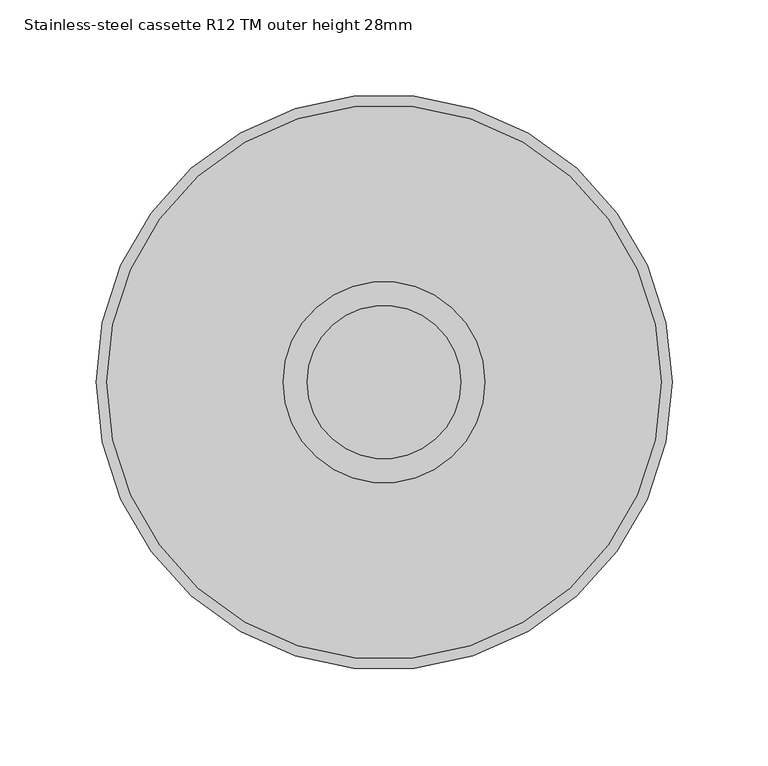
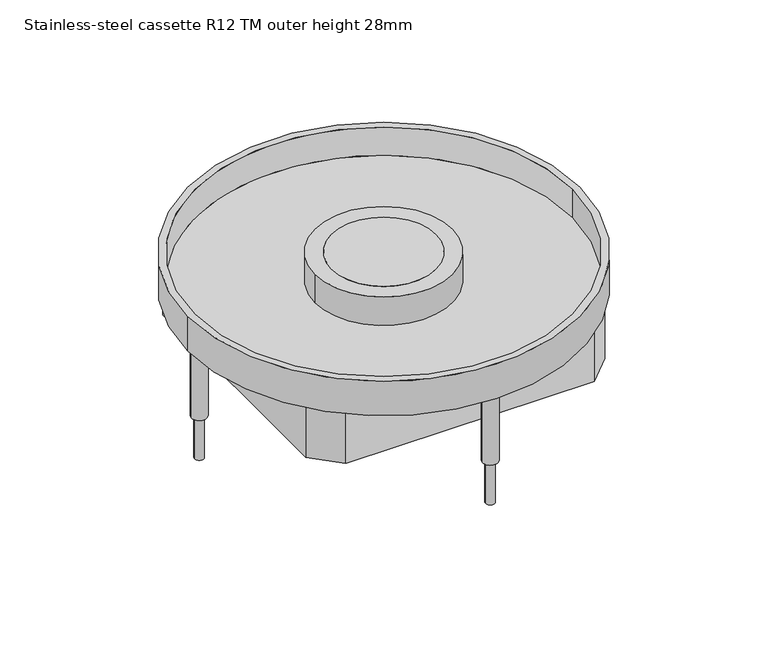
"""IFC4 building model written with IfcOpenShell, lengths in millimetres: proxy geometry, Electrical_Installation_Hager_VE-EE_EKR-Height-adjustable-stainless-steel-cassette-with-tube-mounting-set-round-for-damp-cleaned-floors : Stainless-steel cassette R12 TM outer height 28mm."""

from ifc_helpers import new_model, si_unit, point, frame, frame_2d, origin, origin_with_axes, origin_2d, place, context, project, spatial, polyline, circle_curve, trimmed, segment, composite_curve, outline, extrude, source, transform, mapped, element, save
from ifc_brep_helpers import plane_surface, cylinder_surface, revolved_surface, advanced_brep


def stainless_steel_cassette_r12_tm_outer_height_28mm_eca8fb90(model_context):
    return source(origin(), model_context, "Body", "SolidModel", [
        extrude(outline(composite_curve([segment(trimmed(circle_curve(origin_2d(), 40.0), [point((-40.0, 0.0))], [point((40.0, 0.0))], False, "CARTESIAN"), True, "CONTINUOUS"), segment(trimmed(circle_curve(origin_2d(), 40.0), [point((40.0, 0.0))], [point((-40.0, 0.0))], False, "CARTESIAN"), True, "CONTINUOUS")], self_intersect=False)), origin_with_axes(), (0.0, 0.0, 1.0), 2.011943),
        advanced_brep(
        [(-52.5, 0.0, 2.011943), (52.5, 0.0, 2.011943), (-40.0, 0.0, 2.011943), (40.0, 0.0, 2.011943), (-52.5, 0.0, -20.988057), (52.5, 0.0, -20.988057), (-40.0, 0.0, -20.988057), (40.0, 0.0, -20.988057), (-52.5, 0.0, 0.0), (52.5, 0.0, 0.0), (-40.0, 0.0, 0.0), (40.0, 0.0, 0.0)],
        [
            (0, 1, circle_curve(frame((0.0, 0.0, 2.011943), z_axis=(0.0, 0.0, 1.0), x_axis=(1.0, 0.0, 0.0)), 52.5)),
            (1, 0, circle_curve(frame((0.0, 0.0, 2.011943), z_axis=(0.0, 0.0, 1.0), x_axis=(1.0, 0.0, 0.0)), 52.5)),
            (2, 3, circle_curve(frame((0.0, 0.0, 2.011943), z_axis=(0.0, 0.0, -1.0), x_axis=(1.0, 0.0, 0.0)), 40.0)),
            (3, 2, circle_curve(frame((0.0, 0.0, 2.011943), z_axis=(0.0, 0.0, -1.0), x_axis=(1.0, 0.0, 0.0)), 40.0)),
            (4, 5, circle_curve(frame((0.0, 0.0, -20.988057), z_axis=(0.0, 0.0, -1.0), x_axis=(1.0, 0.0, 0.0)), 52.5)),
            (5, 4, circle_curve(frame((0.0, 0.0, -20.988057), z_axis=(0.0, 0.0, -1.0), x_axis=(1.0, 0.0, 0.0)), 52.5)),
            (6, 7, circle_curve(frame((0.0, 0.0, -20.988057), z_axis=(0.0, 0.0, 1.0), x_axis=(1.0, 0.0, 0.0)), 40.0)),
            (7, 6, circle_curve(frame((0.0, 0.0, -20.988057), z_axis=(0.0, 0.0, 1.0), x_axis=(1.0, 0.0, 0.0)), 40.0)),
            (0, 8),
            (8, 4),
            (5, 9),
            (9, 1),
            (2, 10),
            (10, 6),
            (7, 11),
            (11, 3),
        ],
        [
            plane_surface(frame((52.5, 0.0, 2.011943), z_axis=(0.0, 0.0, 1.0), x_axis=(0.0, 1.0, 0.0))),
            plane_surface(frame((52.5, 0.0, -20.988057), z_axis=(0.0, 0.0, -1.0), x_axis=(0.0, -1.0, 0.0))),
            cylinder_surface(frame((0.0, 0.0, -20.988057), z_axis=(0.0, 0.0, 1.0), x_axis=(1.0, 0.0, 0.0)), 52.5),
            revolved_surface(polyline([(40.0, 0.0, -20.988057), (40.0, 0.0, 2.011943)]), (0.0, 0.0, 0.0), (0.0, 0.0, -1.0)),
        ],
        [
            (0, [[1, 2], [3, 4]]),
            (1, [[5, 6], [7, 8]]),
            (2, [[-1, 9, 10, -6, 11, 12]]),
            (2, [[-2, -12, -11, -5, -10, -9]]),
            (3, [[-3, 13, 14, -8, 15, 16]]),
            (3, [[-4, -16, -15, -7, -14, -13]]),
        ],
    ),
        extrude(outline(composite_curve([segment(trimmed(circle_curve(frame_2d((-141.3, 0.0)), 3.5), [point((-144.8, 0.0))], [point((-137.8, 0.0))], False, "CARTESIAN"), True, "CONTINUOUS"), segment(trimmed(circle_curve(frame_2d((-141.3, 0.0)), 3.5), [point((-137.8, 0.0))], [point((-144.8, 0.0))], False, "CARTESIAN"), True, "CONTINUOUS")], self_intersect=False)), frame((0.0, 0.0, -115.0), z_axis=(0.0, 0.0, 1.0), x_axis=(1.0, 0.0, 0.0)), (0.0, 0.0, 1.0), 89.011943),
        extrude(outline(composite_curve([segment(trimmed(circle_curve(frame_2d((0.0, 141.3)), 3.5), [point((-3.5, 141.3))], [point((3.5, 141.3))], False, "CARTESIAN"), True, "CONTINUOUS"), segment(trimmed(circle_curve(frame_2d((0.0, 141.3)), 3.5), [point((3.5, 141.3))], [point((-3.5, 141.3))], False, "CARTESIAN"), True, "CONTINUOUS")], self_intersect=False)), frame((0.0, 0.0, -115.0), z_axis=(0.0, 0.0, 1.0), x_axis=(1.0, 0.0, 0.0)), (0.0, 0.0, 1.0), 89.011943),
        extrude(outline(composite_curve([segment(trimmed(circle_curve(frame_2d((141.3, 0.0)), 3.548869), [point((137.751131, 0.0))], [point((144.848869, 0.0))], False, "CARTESIAN"), True, "CONTINUOUS"), segment(trimmed(circle_curve(frame_2d((141.3, 0.0)), 3.548869), [point((144.848869, 0.0))], [point((137.751131, 0.0))], False, "CARTESIAN"), True, "CONTINUOUS")], self_intersect=False)), frame((0.0, 0.0, -115.0), z_axis=(0.0, 0.0, 1.0), x_axis=(1.0, 0.0, 0.0)), (0.0, 0.0, 1.0), 89.011943),
        extrude(outline(composite_curve([segment(trimmed(circle_curve(frame_2d((0.0, -141.3)), 3.5), [point((-3.5, -141.3))], [point((3.5, -141.3))], False, "CARTESIAN"), True, "CONTINUOUS"), segment(trimmed(circle_curve(frame_2d((0.0, -141.3)), 3.5), [point((3.5, -141.3))], [point((-3.5, -141.3))], False, "CARTESIAN"), True, "CONTINUOUS")], self_intersect=False)), frame((0.0, 0.0, -115.0), z_axis=(0.0, 0.0, 1.0), x_axis=(1.0, 0.0, 0.0)), (0.0, 0.0, 1.0), 89.011943),
        advanced_brep(
        [(144.5, 0.0, -20.988057), (-144.5, 0.0, -20.988057), (-40.0, 0.0, -20.988057), (40.0, 0.0, -20.988057), (-150.0, 0.0, -25.988057), (150.0, 0.0, -25.988057), (-40.0, 0.0, -25.988057), (40.0, 0.0, -25.988057), (-150.0, 0.0, 2.011943), (150.0, 0.0, 2.011943), (-144.5, 0.0, 2.011943), (144.5, 0.0, 2.011943)],
        [
            (0, 1, circle_curve(frame((0.0, 0.0, -20.988057), z_axis=(0.0, 0.0, 1.0), x_axis=(1.0, 0.0, 0.0)), 144.5)),
            (1, 0, circle_curve(frame((0.0, 0.0, -20.988057), z_axis=(0.0, 0.0, 1.0), x_axis=(1.0, 0.0, 0.0)), 144.5)),
            (2, 3, circle_curve(frame((0.0, 0.0, -20.988057), z_axis=(0.0, 0.0, -1.0), x_axis=(1.0, 0.0, 0.0)), 40.0)),
            (3, 2, circle_curve(frame((0.0, 0.0, -20.988057), z_axis=(0.0, 0.0, -1.0), x_axis=(1.0, 0.0, 0.0)), 40.0)),
            (4, 5, circle_curve(frame((0.0, 0.0, -25.988057), z_axis=(0.0, 0.0, -1.0), x_axis=(1.0, 0.0, 0.0)), 150.0)),
            (5, 4, circle_curve(frame((0.0, 0.0, -25.988057), z_axis=(0.0, 0.0, -1.0), x_axis=(1.0, 0.0, 0.0)), 150.0)),
            (6, 7, circle_curve(frame((0.0, 0.0, -25.988057), z_axis=(0.0, 0.0, 1.0), x_axis=(1.0, 0.0, 0.0)), 40.0)),
            (7, 6, circle_curve(frame((0.0, 0.0, -25.988057), z_axis=(0.0, 0.0, 1.0), x_axis=(1.0, 0.0, 0.0)), 40.0)),
            (8, 9, circle_curve(frame((0.0, 0.0, 2.011943), z_axis=(0.0, 0.0, 1.0), x_axis=(1.0, 0.0, 0.0)), 150.0)),
            (9, 8, circle_curve(frame((0.0, 0.0, 2.011943), z_axis=(0.0, 0.0, 1.0), x_axis=(1.0, 0.0, 0.0)), 150.0)),
            (10, 11, circle_curve(frame((0.0, 0.0, 2.011943), z_axis=(0.0, 0.0, -1.0), x_axis=(1.0, 0.0, 0.0)), 144.5)),
            (11, 10, circle_curve(frame((0.0, 0.0, 2.011943), z_axis=(0.0, 0.0, -1.0), x_axis=(1.0, 0.0, 0.0)), 144.5)),
            (8, 4),
            (5, 9),
            (10, 1),
            (0, 11),
            (2, 6),
            (7, 3),
        ],
        [
            plane_surface(frame((144.5, 0.0, -20.988057), z_axis=(0.0, 0.0, 1.0), x_axis=(0.0, 1.0, 0.0))),
            plane_surface(frame((144.5, 0.0, -25.988057), z_axis=(0.0, 0.0, -1.0), x_axis=(0.0, -1.0, 0.0))),
            plane_surface(frame((150.0, 0.0, 2.011943), z_axis=(0.0, 0.0, 1.0), x_axis=(0.0, 1.0, 0.0))),
            cylinder_surface(frame((0.0, 0.0, -25.988057), z_axis=(0.0, 0.0, 1.0), x_axis=(1.0, 0.0, 0.0)), 150.0),
            revolved_surface(polyline([(144.5, 0.0, -20.988057), (144.5, 0.0, 2.011943)]), (0.0, 0.0, 0.0), (0.0, 0.0, -1.0)),
            revolved_surface(polyline([(40.0, 0.0, -25.988057), (40.0, 0.0, -20.988057)]), (0.0, 0.0, 0.0), (0.0, 0.0, -1.0)),
        ],
        [
            (0, [[1, 2], [3, 4]]),
            (1, [[5, 6], [7, 8]]),
            (2, [[9, 10], [11, 12]]),
            (3, [[-9, 13, -6, 14]]),
            (3, [[-10, -14, -5, -13]]),
            (4, [[-11, 15, -1, 16]]),
            (4, [[-12, -16, -2, -15]]),
            (5, [[-3, 17, -8, 18]]),
            (5, [[-4, -18, -7, -17]]),
        ],
    ),
        extrude(outline(polyline([(94.9818914, 114.5), (114.5, 94.9818914), (114.5, -94.9818914), (94.9818914, -114.5), (-94.9818914, -114.5), (-114.5, -94.9818914), (-114.5, 94.9818914), (-94.9818914, 114.5), (94.9818914, 114.5)]), holes=[polyline([(-111.5, 93.8602374), (-111.5, -93.8602374), (-93.8602374, -111.5), (93.8602374, -111.5), (111.5, -93.8602374), (111.5, 93.8602374), (93.8602374, 111.5), (-93.8602374, 111.5), (-111.5, 93.8602374)])]), frame((0.0, 0.0, -66.9258981), z_axis=(0.0, 0.0, 1.0), x_axis=(1.0, 0.0, 0.0)), (0.0, 0.0, 1.0), 40.9378411),
        extrude(outline(composite_curve([segment(trimmed(circle_curve(frame_2d((0.0, 141.3)), 5.9738904), [point((-5.9738904, 141.3))], [point((5.9738904, 141.3))], False, "CARTESIAN"), True, "CONTINUOUS"), segment(trimmed(circle_curve(frame_2d((0.0, 141.3)), 5.9738904), [point((5.9738904, 141.3))], [point((-5.9738904, 141.3))], False, "CARTESIAN"), True, "CONTINUOUS")], self_intersect=False)), frame((0.0, 0.0, -81.0371838), z_axis=(0.0, 0.0, 1.0), x_axis=(1.0, 0.0, 0.0)), (0.0, 0.0, 1.0), 55.0491267),
        extrude(outline(composite_curve([segment(trimmed(circle_curve(frame_2d((141.3, 0.0)), 6.0), [point((135.3, 0.0))], [point((147.3, 0.0))], False, "CARTESIAN"), True, "CONTINUOUS"), segment(trimmed(circle_curve(frame_2d((141.3, 0.0)), 6.0), [point((147.3, 0.0))], [point((135.3, 0.0))], False, "CARTESIAN"), True, "CONTINUOUS")], self_intersect=False)), frame((0.0, 0.0, -81.0371838), z_axis=(0.0, 0.0, 1.0), x_axis=(1.0, 0.0, 0.0)), (0.0, 0.0, 1.0), 55.0491267),
        extrude(outline(composite_curve([segment(trimmed(circle_curve(frame_2d((0.0, -141.3)), 6.0), [point((-6.0, -141.3))], [point((6.0, -141.3))], False, "CARTESIAN"), True, "CONTINUOUS"), segment(trimmed(circle_curve(frame_2d((0.0, -141.3)), 6.0), [point((6.0, -141.3))], [point((-6.0, -141.3))], False, "CARTESIAN"), True, "CONTINUOUS")], self_intersect=False)), frame((0.0, 0.0, -81.0371838), z_axis=(0.0, 0.0, 1.0), x_axis=(1.0, 0.0, 0.0)), (0.0, 0.0, 1.0), 55.0491267),
        extrude(outline(composite_curve([segment(trimmed(circle_curve(frame_2d((-141.3, 0.0)), 6.0), [point((-147.3, 0.0))], [point((-135.3, 0.0))], False, "CARTESIAN"), True, "CONTINUOUS"), segment(trimmed(circle_curve(frame_2d((-141.3, 0.0)), 6.0), [point((-135.3, 0.0))], [point((-147.3, 0.0))], False, "CARTESIAN"), True, "CONTINUOUS")], self_intersect=False)), frame((0.0, 0.0, -81.0371838), z_axis=(0.0, 0.0, 1.0), x_axis=(1.0, 0.0, 0.0)), (0.0, 0.0, 1.0), 55.0491267),
    ])


if __name__ == "__main__":
    model = new_model("IFC4")
    model_context = context("Model", 3, world=origin())
    ifc_project = project(units=[si_unit("LENGTHUNIT", "METRE", prefix="MILLI")], contexts=[model_context])
    site = spatial("IfcSite", under=ifc_project)
    building = spatial("IfcBuilding", under=site)
    placement = place(None, origin())
    stainless_steel_cassette_r12_tm_outer_height_28mm_shape = stainless_steel_cassette_r12_tm_outer_height_28mm_eca8fb90(model_context)
    element("IfcBuildingElementProxy", 1, Name="Electrical_Installation_Hager_VE-EE_EKR-Height-adjustable-stainless-steel-cassette-with-tube-mounting-set-round-for-damp-cleaned-floors : Stainless-steel cassette R12 TM outer height 28mm", ObjectType="Electrical_Installation_Hager_VE-EE_EKR-Height-adjustable-stainless-steel-cassette-with-tube-mounting-set-round-for-damp-cleaned-floors : Stainless-steel cassette R12 TM outer height 28mm", at=placement, inside=building, context=model_context, shape_type="MappedRepresentation", body=[
        mapped(stainless_steel_cassette_r12_tm_outer_height_28mm_shape, transform((0.0, 0.0, 0.0), x_axis=(1.0, 0.0, 0.0), y_axis=(0.0, 1.0, 0.0), z_axis=(0.0, 0.0, 1.0))),
    ])
    save(model, "model.ifc")
